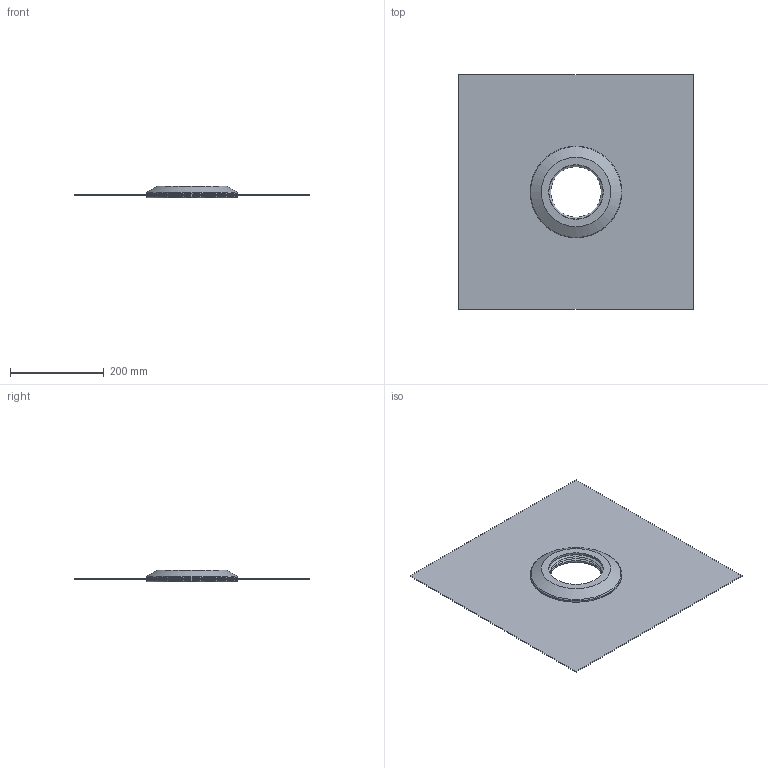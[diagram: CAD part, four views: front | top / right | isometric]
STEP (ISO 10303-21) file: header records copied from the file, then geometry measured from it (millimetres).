
FILE_DESCRIPTION(/* description */ (''),/* implementation_level */ '2;1');
FILE_NAME(/* name */ 'H:\Geberit-Teile\Export\367.673.00.1\stp\367673.stp',/* time_stamp */ '2016-06-20T09:48:24+02:00',/* author */ ('seihe2'),/* organization */ (''),/* preprocessor_version */ 'ST-DEVELOPER v15.2',/* originating_system */ 'Autodesk Inventor 2014',/* authorisation */ '');
FILE_SCHEMA (('AUTOMOTIVE_DESIGN { 1 0 10303 214 3 1 1 }'));
Length unit declared in the file: millimetre
Products named in the file (1): 367673
Bounding box: 500 x 500 x 25 mm (x, y, z)
Volume: 682164.7 mm3; surface area: 593801.2 mm2
Topology: 3 solids, 3 shells, 47 faces, 79 edges, 50 vertices
Faces by surface type: plane 22, cylinder 16, cone 7, torus 2
Full cylindrical faces by diameter (mm): 116 x2, 121.5 x2, 121.7 x2, 125.3 x2, 125.5 x2, 129.5 x1, 129.7 x1, 139.8 x1, 140 x1, 195 x2
Entity records: 1074 total; most frequent: DIRECTION 192, CARTESIAN_POINT 152, ORIENTED_EDGE 108, EDGE_LOOP 90, AXIS2_PLACEMENT_3D 90, FACE_BOUND 54, EDGE_CURVE 54, VERTEX_POINT 50
